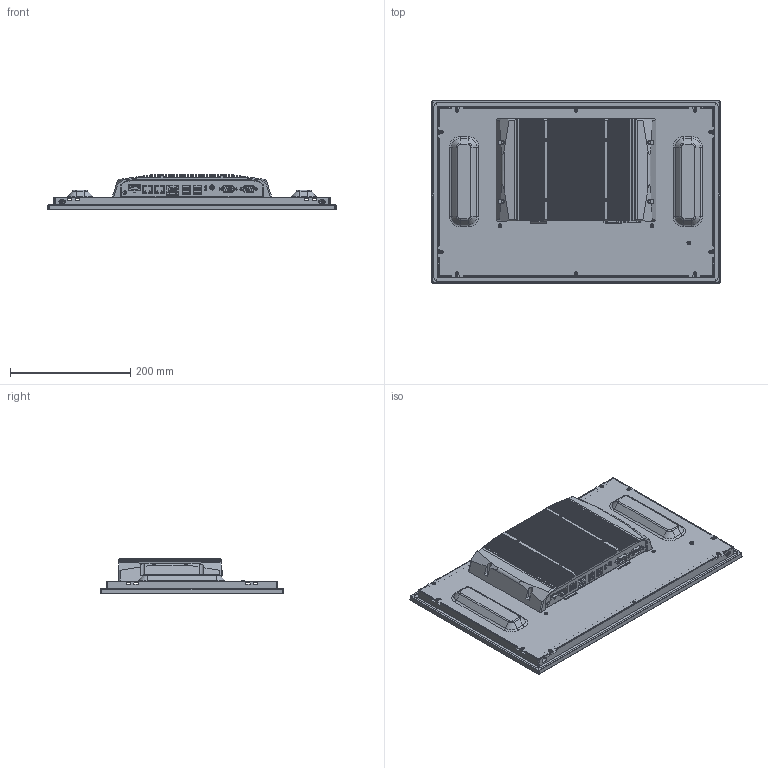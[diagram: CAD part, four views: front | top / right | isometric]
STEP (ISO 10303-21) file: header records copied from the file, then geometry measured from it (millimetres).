
FILE_DESCRIPTION (( 'STEP AP214' ), '1' );
FILE_NAME ('TPC-C185H-S-J6412.STEP', '2023-11-17T04:03:43', ( 'dhb' ), ( '' ), 'SwSTEP 2.0', 'SolidWorks 2016', '' );
FILE_SCHEMA (( 'AUTOMOTIVE_DESIGN' ));
Length unit declared in the file: millimetre
Products named in the file (1): TPC-C185H-S-J6412
Bounding box: 480 x 304 x 58.4 mm (x, y, z)
Surface area: 479030.5 mm2 (no closed solid volume)
Topology: 0 solids, 62 shells, 1375 faces, 7269 edges, 5563 vertices
Faces by surface type: plane 862, cylinder 381, cone 80, bspline 42, torus 10
Entity records: 88564 total; most frequent: CARTESIAN_POINT 19638, DIRECTION 10530, ORIENTED_EDGE 9905, EDGE_CURVE 7245, VERTEX_POINT 5563, VECTOR 5440, LINE 5440, AXIS2_PLACEMENT_3D 2545
